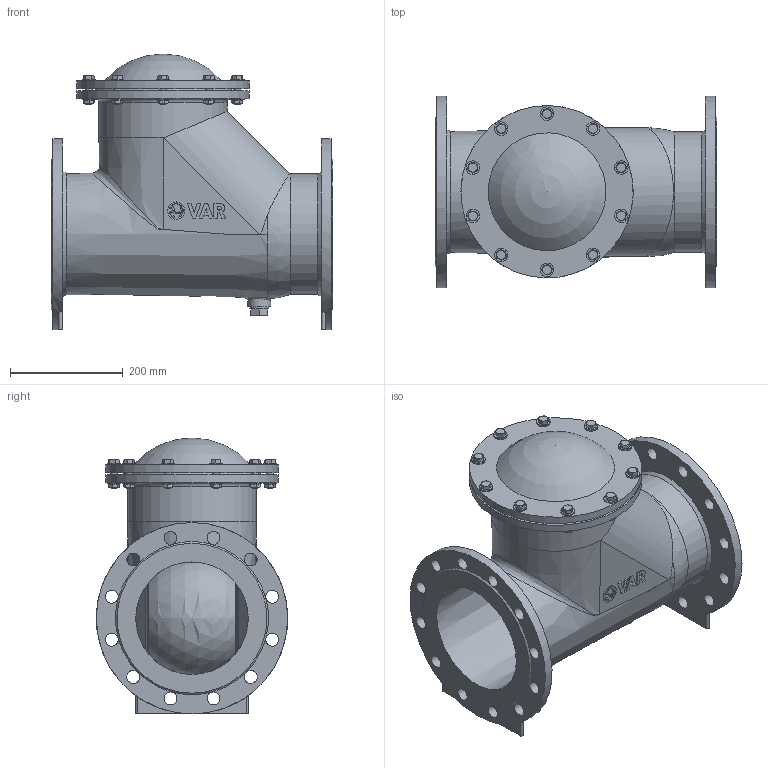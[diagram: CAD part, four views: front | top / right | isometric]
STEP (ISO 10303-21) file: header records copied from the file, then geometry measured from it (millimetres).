
FILE_DESCRIPTION(('STEP AP203'), '1');
FILE_NAME('Øàðîâîé îáðàòíûé êëàïàí VAG KRV', '', ('UNSPECIFIED'), ('UNSPECIFIED'), 'C3D Converter', 'C3D Toolkit', '');
FILE_SCHEMA(('CONFIG_CONTROL_DESIGN'));
Length unit declared in the file: millimetre
Assembly tree (46 placements, depth 2):
  (unnamed)
    (unnamed)
    (unnamed)
    (unnamed)
    (unnamed)
    (unnamed)
    (unnamed)  x10
    (unnamed)  x10
    (unnamed)  x10
    (unnamed)  x10
    (unnamed)
Bounding box: 500 x 340 x 490 mm (x, y, z)
Volume: 11983999.6 mm3; surface area: 1773363.9 mm2
Topology: 47 solids, 48 shells, 759 faces, 1940 edges, 1306 vertices
Faces by surface type: plane 367, extrusion 152, cylinder 129, cone 75, torus 14, bspline 13, sphere 9
Full cylindrical faces by diameter (mm): 10.106 x10, 12 x10, 13 x20, 14 x20, 20 x2, 21 x1, 23 x24, 24 x20, 28.19 x1, 30.838 x1, 34 x1, 41 x1, 200 x1, 214 x2, 228 x1, 306 x2, 340 x2
Entity records: 23222 total; most frequent: CARTESIAN_POINT 9052, ORIENTED_EDGE 2218, DIRECTION 1778, EDGE_CURVE 1109, VERTEX_POINT 777, EDGE_LOOP 667, VECTOR 638, AXIS2_PLACEMENT_3D 570
